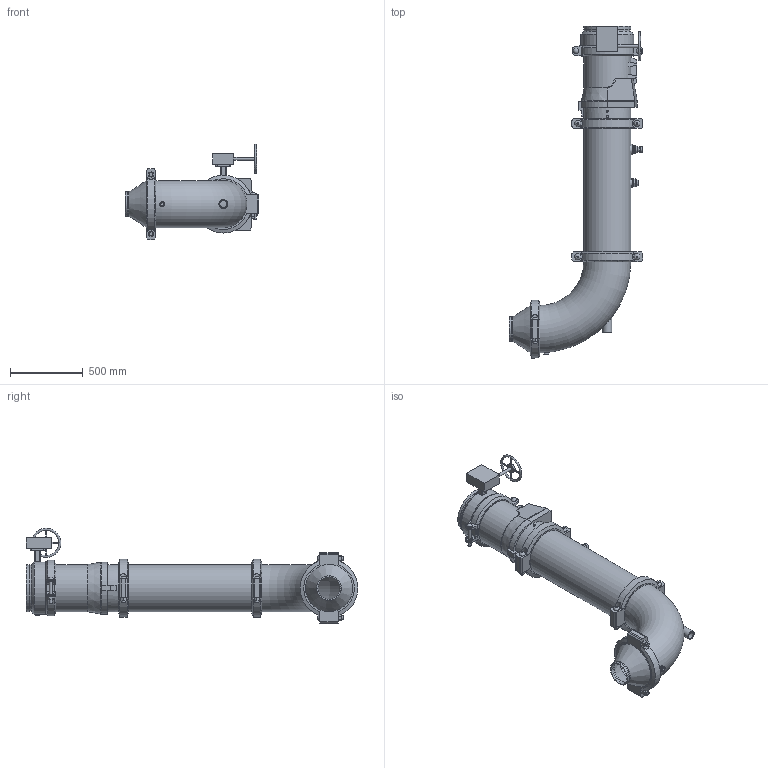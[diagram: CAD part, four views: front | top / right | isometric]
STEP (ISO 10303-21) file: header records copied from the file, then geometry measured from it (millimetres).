
FILE_DESCRIPTION(/* description */ ('VIC DVI PUMP DROP HORZ S/380G (OGS)','CAx-IF Rec.Pracs.---Representation and Presentation of Product Manufacturing Information (PMI)---4.0---2014-10-13'),/* implementation_level */ '2;1');
FILE_NAME(/* name */ 'C:\Users\Vjadhav\AppData\Roaming\Autodesk\ApplicationPlugins\Victaulic.Temp\A853\Victaulic_IPS_Horizontal DVI_Series 380G (OGS)_924 (0.75)_12.0x06.0 (300x150).stp',/* time_stamp */ '2021-07-13T16:46:56+05:00',/* author */ ('Vjadhav'),/* organization */ ('Victaulic'),/* preprocessor_version */ 'ST-DEVELOPER v17.2',/* originating_system */ 'Autodesk Inventor 2019',/* authorisation */ '');
FILE_SCHEMA (('AP242_MANAGED_MODEL_BASED_3D_ENGINEERING_MIM_LF { 1 0 10303 442 1 1 4 }'));
Length unit declared in the file: inch
Products named in the file (10): 380G_924 (0.75)-12.0x06.0; Pipe-12.0; 107N-12.0; 924-10.0x0.75; 923-10.0x0.75; 779-12.0; 761-12.0; 077-12.0; 100G-12.0; 050-12.0x06.0
Assembly tree (11 placements, depth 2):
  380G_924 (0.75)-12.0x06.0
    Pipe-12.0
    107N-12.0
    924-10.0x0.75
    923-10.0x0.75
    779-12.0
    761-12.0
    077-12.0  x3
    100G-12.0
    050-12.0x06.0
Bounding box: 919.16 x 2279.33 x 655.43 mm (x, y, z)
Volume: 46287266.8 mm3; surface area: 6782345.4 mm2
Topology: 11 solids, 18 shells, 619 faces, 1539 edges, 1041 vertices
Faces by surface type: plane 351, cylinder 208, bspline 24, cone 24, torus 10, sphere 2
Full cylindrical faces by diameter (mm): 10.922 x4, 13.716 x4, 20.066 x1, 20.93 x1, 21.336 x1, 22.225 x4, 22.86 x1, 25.4 x12, 26.67 x4, 27.432 x6, 31.75 x1, 34.29 x1, 37.694 x2, 38.608 x1, 45.974 x4, 48.26 x1, 55.626 x2, 60.96 x1, 63.079 x1, 70.104 x1, 76.2 x1, 154.051 x1, 163.957 x1, 168.275 x2, 303.225 x2, 304.8 x4, 311.15 x1, 314.96 x3, 318.287 x9, 323.85 x23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
Entity records: 17293 total; most frequent: CARTESIAN_POINT 3983, DIRECTION 2718, ORIENTED_EDGE 2498, EDGE_CURVE 1249, AXIS2_PLACEMENT_3D 1040, VERTEX_POINT 845, LINE 638, VECTOR 638
